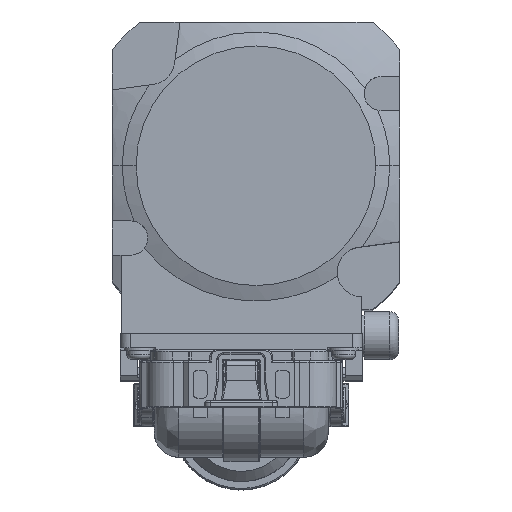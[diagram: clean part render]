
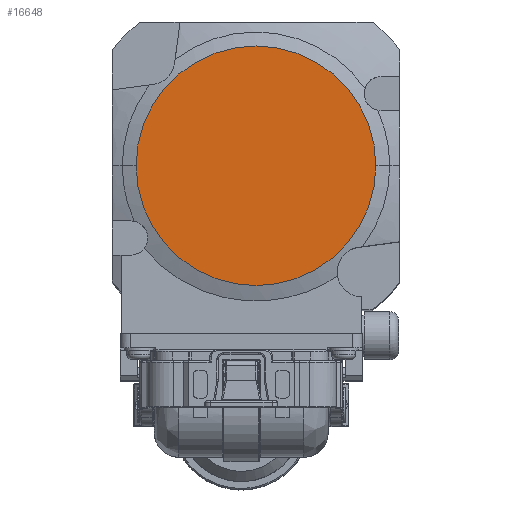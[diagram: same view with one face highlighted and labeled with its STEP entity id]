
A CAD part, top view. The second image highlights one B-rep face of the part: STEP entity #16648.
In plain terms, the highlighted planar face has unit normal (0, 0, 1).
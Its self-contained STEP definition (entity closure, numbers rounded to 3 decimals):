
#3645 = DIRECTION ( 'NONE',  ( 1., 0., 0. ) ) ;
#6478 = CARTESIAN_POINT ( 'NONE',  ( 0., 0., 75.5 ) ) ;
#8386 = EDGE_CURVE ( 'NONE', #11945, #31880, #30431, .T. ) ;
#8755 = CARTESIAN_POINT ( 'NONE',  ( -17.5, 0., 75.5 ) ) ;
#9227 = PLANE ( 'NONE',  #31683 ) ;
#9447 = CARTESIAN_POINT ( 'NONE',  ( 17.5, 0., 75.5 ) ) ;
#11796 = CIRCLE ( 'NONE', #30998, 17.5 ) ;
#11945 = VERTEX_POINT ( 'NONE', #9447 ) ;
#11977 = FACE_OUTER_BOUND ( 'NONE', #25345, .T. ) ;
#12862 = DIRECTION ( 'NONE',  ( 0., 0., 1. ) ) ;
#14975 = CARTESIAN_POINT ( 'NONE',  ( 0., 0., 75.5 ) ) ;
#15566 = ORIENTED_EDGE ( 'NONE', *, *, #8386, .T. ) ;
#16648 = ADVANCED_FACE ( 'NONE', ( #11977 ), #9227, .T. ) ;
#17339 = DIRECTION ( 'NONE',  ( 0., 0., 1. ) ) ;
#19581 = EDGE_CURVE ( 'NONE', #31880, #11945, #11796, .T. ) ;
#25345 = EDGE_LOOP ( 'NONE', ( #33744, #15566 ) ) ;
#26101 = DIRECTION ( 'NONE',  ( 1., 0., 0. ) ) ;
#26482 = DIRECTION ( 'NONE',  ( 0., 0., 1. ) ) ;
#26823 = CARTESIAN_POINT ( 'NONE',  ( 0., 0., 75.5 ) ) ;
#28662 = AXIS2_PLACEMENT_3D ( 'NONE', #14975, #17339, #3645 ) ;
#30431 = CIRCLE ( 'NONE', #28662, 17.5 ) ;
#30998 = AXIS2_PLACEMENT_3D ( 'NONE', #26823, #26482, #26101 ) ;
#31683 = AXIS2_PLACEMENT_3D ( 'NONE', #6478, #12862, #32009 ) ;
#31880 = VERTEX_POINT ( 'NONE', #8755 ) ;
#32009 = DIRECTION ( 'NONE',  ( 1., 0., 0. ) ) ;
#33744 = ORIENTED_EDGE ( 'NONE', *, *, #19581, .T. ) ;
